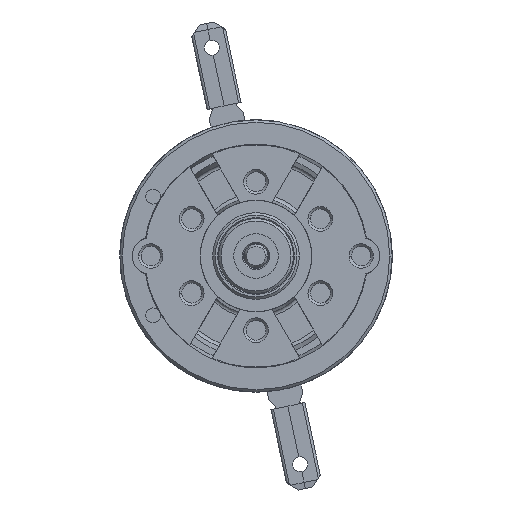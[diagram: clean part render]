
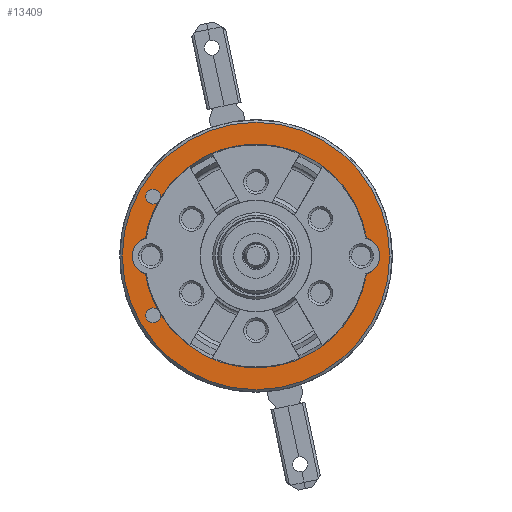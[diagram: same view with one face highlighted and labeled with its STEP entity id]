
A CAD part, left-side view. The second image highlights one B-rep face of the part: STEP entity #13409.
In plain terms, the highlighted planar face has unit normal (-1, 0, 0).
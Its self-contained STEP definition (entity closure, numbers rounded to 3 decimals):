
#3460=CARTESIAN_POINT('',(-29.2,0.,0.));
#3461=DIRECTION('',(-1.,0.,0.));
#3462=DIRECTION('',(0.,1.,0.));
#3463=AXIS2_PLACEMENT_3D('',#3460,#3461,#3462);
#3468=CARTESIAN_POINT('',(-29.2,0.,0.));
#3469=DIRECTION('',(-1.,0.,0.));
#3470=DIRECTION('',(0.,-1.,0.));
#3471=AXIS2_PLACEMENT_3D('',#3468,#3469,#3470);
#3476=CARTESIAN_POINT('',(-29.2,8.31,-4.8));
#3477=DIRECTION('',(-1.,0.,0.));
#3478=DIRECTION('',(0.,1.,0.));
#3479=AXIS2_PLACEMENT_3D('',#3476,#3477,#3478);
#3484=CARTESIAN_POINT('',(-29.2,8.31,-4.8));
#3485=DIRECTION('',(-1.,0.,0.));
#3486=DIRECTION('',(0.,-1.,0.));
#3487=AXIS2_PLACEMENT_3D('',#3484,#3485,#3486);
#3492=CARTESIAN_POINT('',(-29.2,0.,0.));
#3493=DIRECTION('',(1.,0.,0.));
#3494=DIRECTION('',(0.,-0.987,-0.159));
#3495=AXIS2_PLACEMENT_3D('',#3492,#3493,#3494);
#3500=CARTESIAN_POINT('',(-29.2,-8.5,0.));
#3501=DIRECTION('',(-1.,0.,0.));
#3502=DIRECTION('',(0.,-0.29,-0.957));
#3503=AXIS2_PLACEMENT_3D('',#3500,#3501,#3502);
#3508=CARTESIAN_POINT('',(-29.2,0.,0.));
#3509=DIRECTION('',(1.,0.,0.));
#3510=DIRECTION('',(0.,0.852,0.523));
#3511=AXIS2_PLACEMENT_3D('',#3508,#3509,#3510);
#3516=CARTESIAN_POINT('',(-29.2,8.31,4.8));
#3517=DIRECTION('',(1.,0.,0.));
#3518=DIRECTION('',(0.,-1.,0.));
#3519=AXIS2_PLACEMENT_3D('',#3516,#3517,#3518);
#3524=CARTESIAN_POINT('',(-29.2,8.31,4.8));
#3525=DIRECTION('',(1.,0.,0.));
#3526=DIRECTION('',(0.,1.,0.));
#3527=AXIS2_PLACEMENT_3D('',#3524,#3525,#3526);
#3532=CARTESIAN_POINT('',(-29.2,8.31,4.8));
#3533=DIRECTION('',(1.,0.,0.));
#3534=DIRECTION('',(0.,-0.593,-0.805));
#3535=AXIS2_PLACEMENT_3D('',#3532,#3533,#3534);
#3540=CARTESIAN_POINT('',(-29.2,0.,0.));
#3541=DIRECTION('',(1.,0.,0.));
#3542=DIRECTION('',(0.,0.987,0.159));
#3543=AXIS2_PLACEMENT_3D('',#3540,#3541,#3542);
#3548=CARTESIAN_POINT('',(-29.2,8.5,0.));
#3549=DIRECTION('',(-1.,0.,0.));
#3550=DIRECTION('',(0.,0.29,0.957));
#3551=AXIS2_PLACEMENT_3D('',#3548,#3549,#3550);
#3556=CARTESIAN_POINT('',(-29.2,0.,0.));
#3557=DIRECTION('',(1.,0.,0.));
#3558=DIRECTION('',(0.,0.879,-0.477));
#3559=AXIS2_PLACEMENT_3D('',#3556,#3557,#3558);
#3564=CARTESIAN_POINT('',(-29.2,8.31,-4.8));
#3565=DIRECTION('',(-1.,0.,0.));
#3566=DIRECTION('',(0.,-0.593,0.805));
#3567=AXIS2_PLACEMENT_3D('',#3564,#3565,#3566);
#9847=CARTESIAN_POINT('',(-29.2,8.91,4.8));
#9848=CARTESIAN_POINT('',(-29.2,7.71,4.8));
#9849=VERTEX_POINT('',#9847);
#9850=VERTEX_POINT('',#9848);
#9851=CARTESIAN_POINT('',(-29.2,7.714,4.733));
#9852=VERTEX_POINT('',#9851);
#9857=CARTESIAN_POINT('',(-29.2,8.91,-4.8));
#9858=VERTEX_POINT('',#9857);
#9859=CARTESIAN_POINT('',(-29.2,7.71,-4.8));
#9860=VERTEX_POINT('',#9859);
#9861=CARTESIAN_POINT('',(-29.2,7.714,-4.733));
#9862=VERTEX_POINT('',#9861);
#9903=CARTESIAN_POINT('',(-29.2,7.954,4.317));
#9904=VERTEX_POINT('',#9903);
#9905=CARTESIAN_POINT('',(-29.2,7.954,-4.317));
#9906=VERTEX_POINT('',#9905);
#9907=CARTESIAN_POINT('',(-29.2,-8.935,-1.435));
#9908=CARTESIAN_POINT('',(-29.2,-8.935,1.435));
#9909=VERTEX_POINT('',#9907);
#9910=VERTEX_POINT('',#9908);
#9911=CARTESIAN_POINT('',(-29.2,8.935,1.435));
#9912=CARTESIAN_POINT('',(-29.2,8.935,-1.435));
#9913=VERTEX_POINT('',#9911);
#9914=VERTEX_POINT('',#9912);
#9953=CARTESIAN_POINT('',(-29.2,10.8,0.));
#9954=CARTESIAN_POINT('',(-29.2,-10.8,0.));
#9955=VERTEX_POINT('',#9953);
#9956=VERTEX_POINT('',#9954);
#13373=CARTESIAN_POINT('',(-29.2,0.,0.));
#13374=DIRECTION('',(-1.,0.,0.));
#13375=DIRECTION('',(0.,1.,0.));
#13376=AXIS2_PLACEMENT_3D('',#13373,#13374,#13375);
#13377=PLANE('',#13376);
#13379=ORIENTED_EDGE('',*,*,#13378,.F.);
#13380=ORIENTED_EDGE('',*,*,#13356,.F.);
#13381=EDGE_LOOP('',(#13379,#13380));
#13382=FACE_OUTER_BOUND('',#13381,.F.);
#13384=ORIENTED_EDGE('',*,*,#13383,.T.);
#13386=ORIENTED_EDGE('',*,*,#13385,.T.);
#13388=ORIENTED_EDGE('',*,*,#13387,.F.);
#13390=ORIENTED_EDGE('',*,*,#13389,.T.);
#13392=ORIENTED_EDGE('',*,*,#13391,.F.);
#13394=ORIENTED_EDGE('',*,*,#13393,.F.);
#13396=ORIENTED_EDGE('',*,*,#13395,.F.);
#13398=ORIENTED_EDGE('',*,*,#13397,.F.);
#13400=ORIENTED_EDGE('',*,*,#13399,.F.);
#13402=ORIENTED_EDGE('',*,*,#13401,.T.);
#13404=ORIENTED_EDGE('',*,*,#13403,.F.);
#13406=ORIENTED_EDGE('',*,*,#13405,.T.);
#13407=EDGE_LOOP('',(#13384,#13386,#13388,#13390,#13392,#13394,#13396,#13398,
#13400,#13402,#13404,#13406));
#13408=FACE_BOUND('',#13407,.F.);
#13409=ADVANCED_FACE('',(#13382,#13408),#13377,.T.);
#3464=CIRCLE('',#3463,10.8);
#3472=CIRCLE('',#3471,10.8);
#3480=CIRCLE('',#3479,0.6);
#3488=CIRCLE('',#3487,0.6);
#3496=CIRCLE('',#3495,9.05);
#3504=CIRCLE('',#3503,1.5);
#3512=CIRCLE('',#3511,9.05);
#3520=CIRCLE('',#3519,0.6);
#3528=CIRCLE('',#3527,0.6);
#3536=CIRCLE('',#3535,0.6);
#3544=CIRCLE('',#3543,9.05);
#3552=CIRCLE('',#3551,1.5);
#3560=CIRCLE('',#3559,9.05);
#3568=CIRCLE('',#3567,0.6);
#13356=EDGE_CURVE('',#9956,#9955,#3472,.T.);
#13378=EDGE_CURVE('',#9955,#9956,#3464,.T.);
#13383=EDGE_CURVE('',#9858,#9860,#3480,.T.);
#13385=EDGE_CURVE('',#9860,#9862,#3488,.T.);
#13387=EDGE_CURVE('',#9909,#9862,#3496,.T.);
#13389=EDGE_CURVE('',#9909,#9910,#3504,.T.);
#13391=EDGE_CURVE('',#9852,#9910,#3512,.T.);
#13393=EDGE_CURVE('',#9850,#9852,#3520,.T.);
#13395=EDGE_CURVE('',#9849,#9850,#3528,.T.);
#13397=EDGE_CURVE('',#9904,#9849,#3536,.T.);
#13399=EDGE_CURVE('',#9913,#9904,#3544,.T.);
#13401=EDGE_CURVE('',#9913,#9914,#3552,.T.);
#13403=EDGE_CURVE('',#9906,#9914,#3560,.T.);
#13405=EDGE_CURVE('',#9906,#9858,#3568,.T.);
